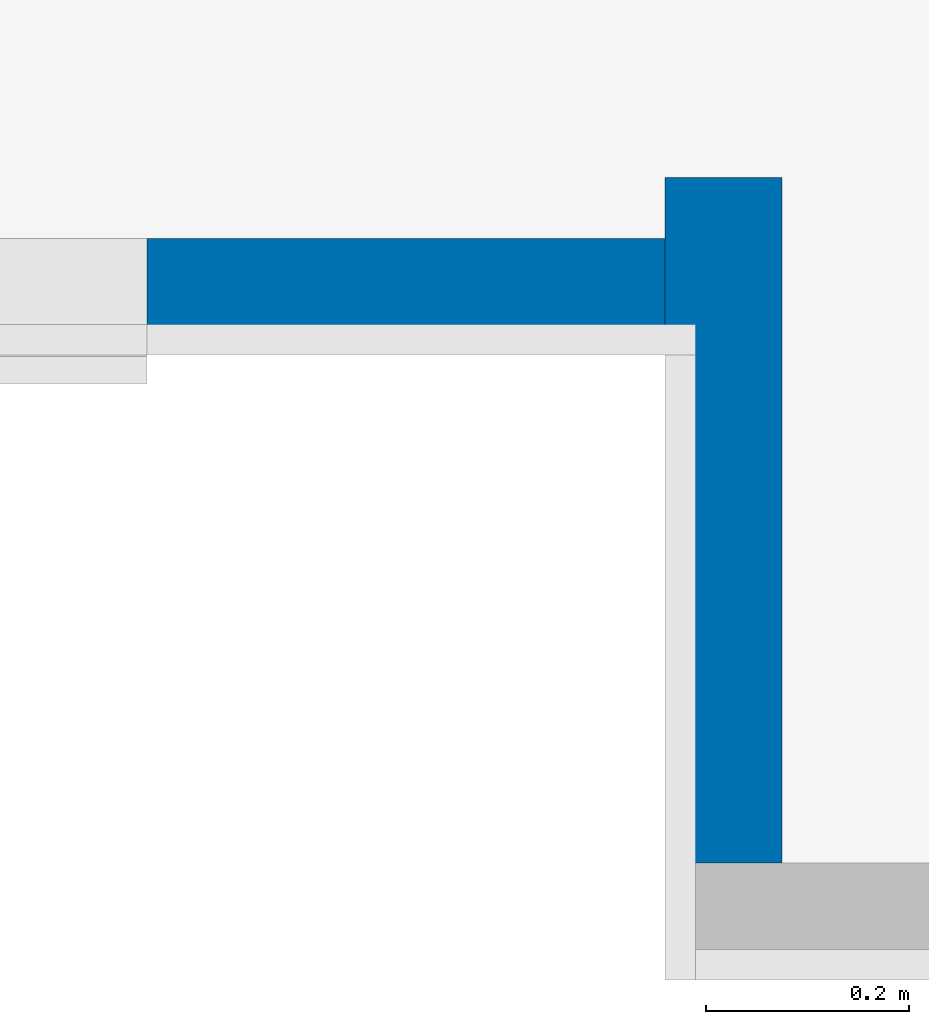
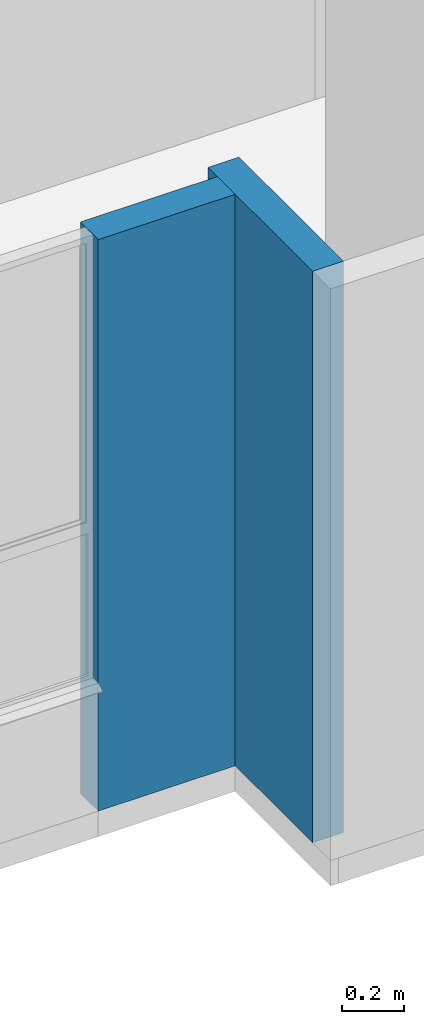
# One storey, part 10 of 48: 2 walls.
"""IFC4 building model written with IfcOpenShell, lengths in metres."""

from ifc_helpers import new_model, entity, si_unit, converted_unit, derived_unit, direction, frame, origin, place, context, subcontext, project, spatial, indexed_curve, outline, extrude, material, type_object, element, save


model = new_model("IFC4")

# Units and contexts
model_context = context("Model", 3, precision=1e-05, world=origin(), true_north=direction((6.123031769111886e-17, 1.0)))
body_context = subcontext(model_context, "Body", "Model", "MODEL_VIEW")
ifc_project = project(units=[si_unit("LENGTHUNIT", "METRE"), si_unit("AREAUNIT", "SQUARE_METRE"), si_unit("VOLUMEUNIT", "CUBIC_METRE"), converted_unit("PLANEANGLEUNIT", "DEGREE", entity("IfcRatioMeasure", 0.017453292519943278), si_unit("PLANEANGLEUNIT", "RADIAN"), dimensions=[0, 0, 0, 0, 0, 0, 0]), si_unit("MASSUNIT", "GRAM", prefix="KILO"), derived_unit("MASSDENSITYUNIT", [(si_unit("MASSUNIT", "GRAM", prefix="KILO"), 1), (si_unit("LENGTHUNIT", "METRE"), -3)]), derived_unit("IONCONCENTRATIONUNIT", [(si_unit("MASSUNIT", "GRAM", prefix="KILO"), 1), (si_unit("LENGTHUNIT", "METRE"), -3)]), derived_unit("MOMENTOFINERTIAUNIT", [(si_unit("LENGTHUNIT", "METRE"), 4)]), si_unit("TIMEUNIT", "SECOND"), si_unit("FREQUENCYUNIT", "HERTZ"), si_unit("THERMODYNAMICTEMPERATUREUNIT", "DEGREE_CELSIUS"), derived_unit("THERMALTRANSMITTANCEUNIT", [(si_unit("MASSUNIT", "GRAM", prefix="KILO"), 1), (si_unit("THERMODYNAMICTEMPERATUREUNIT", "KELVIN"), -1), (si_unit("TIMEUNIT", "SECOND"), -3)]), derived_unit("THERMALCONDUCTANCEUNIT", [(si_unit("MASSUNIT", "GRAM", prefix="KILO"), 1), (si_unit("THERMODYNAMICTEMPERATUREUNIT", "KELVIN"), -1), (si_unit("TIMEUNIT", "SECOND"), -3), (si_unit("LENGTHUNIT", "METRE"), 1)]), derived_unit("VOLUMETRICFLOWRATEUNIT", [(si_unit("LENGTHUNIT", "METRE"), 3), (si_unit("TIMEUNIT", "SECOND"), -1)]), derived_unit("MASSFLOWRATEUNIT", [(si_unit("MASSUNIT", "GRAM", prefix="KILO"), 1), (si_unit("TIMEUNIT", "SECOND"), -1)]), derived_unit("ROTATIONALFREQUENCYUNIT", [(si_unit("TIMEUNIT", "SECOND"), -1)]), si_unit("ELECTRICCURRENTUNIT", "AMPERE"), si_unit("ELECTRICVOLTAGEUNIT", "VOLT"), si_unit("POWERUNIT", "WATT"), si_unit("FORCEUNIT", "NEWTON", prefix="KILO"), si_unit("ILLUMINANCEUNIT", "LUX"), si_unit("LUMINOUSFLUXUNIT", "LUMEN"), si_unit("LUMINOUSINTENSITYUNIT", "CANDELA"), derived_unit("USERDEFINED", [(si_unit("MASSUNIT", "GRAM", prefix="KILO"), -1), (si_unit("LENGTHUNIT", "METRE"), -2), (si_unit("TIMEUNIT", "SECOND"), 3), (si_unit("LUMINOUSFLUXUNIT", "LUMEN"), 1)]), derived_unit("USERDEFINED", [(si_unit("MASSUNIT", "GRAM", prefix="KILO"), 1), (si_unit("TIMEUNIT", "SECOND"), -3), (si_unit("LENGTHUNIT", "METRE"), 3), (si_unit("ELECTRICCURRENTUNIT", "AMPERE"), -2)]), derived_unit("SOUNDPOWERUNIT", [(si_unit("MASSUNIT", "GRAM", prefix="KILO"), 1), (si_unit("TIMEUNIT", "SECOND"), -3), (si_unit("LENGTHUNIT", "METRE"), 2)]), derived_unit("SOUNDPRESSUREUNIT", [(si_unit("MASSUNIT", "GRAM", prefix="KILO"), 1), (si_unit("LENGTHUNIT", "METRE"), -1), (si_unit("TIMEUNIT", "SECOND"), -2)]), derived_unit("LINEARVELOCITYUNIT", [(si_unit("LENGTHUNIT", "METRE"), 1), (si_unit("TIMEUNIT", "SECOND"), -1)]), si_unit("PRESSUREUNIT", "PASCAL"), derived_unit("USERDEFINED", [(si_unit("MASSUNIT", "GRAM", prefix="KILO"), 1), (si_unit("LENGTHUNIT", "METRE"), -2), (si_unit("TIMEUNIT", "SECOND"), -2)]), derived_unit("LINEARFORCEUNIT", [(si_unit("MASSUNIT", "GRAM", prefix="KILO"), 1), (si_unit("TIMEUNIT", "SECOND"), -2)]), derived_unit("PLANARFORCEUNIT", [(si_unit("MASSUNIT", "GRAM", prefix="KILO"), 1), (si_unit("LENGTHUNIT", "METRE"), -1), (si_unit("TIMEUNIT", "SECOND"), -2)]), derived_unit("SPECIFICHEATCAPACITYUNIT", [(si_unit("THERMODYNAMICTEMPERATUREUNIT", "KELVIN"), -1), (si_unit("LENGTHUNIT", "METRE"), 2), (si_unit("TIMEUNIT", "SECOND"), -2)]), derived_unit("HEATINGVALUEUNIT", [(si_unit("LENGTHUNIT", "METRE"), 2), (si_unit("TIMEUNIT", "SECOND"), -2)]), derived_unit("VAPORPERMEABILITYUNIT", [(si_unit("LENGTHUNIT", "METRE"), -1), (si_unit("TIMEUNIT", "SECOND"), 1)]), derived_unit("DYNAMICVISCOSITYUNIT", [(si_unit("MASSUNIT", "GRAM", prefix="KILO"), 1), (si_unit("TIMEUNIT", "SECOND"), -1), (si_unit("LENGTHUNIT", "METRE"), -1)]), derived_unit("THERMALEXPANSIONCOEFFICIENTUNIT", [(si_unit("THERMODYNAMICTEMPERATUREUNIT", "KELVIN"), -1)]), derived_unit("MODULUSOFELASTICITYUNIT", [(si_unit("MASSUNIT", "GRAM", prefix="KILO"), 1), (si_unit("LENGTHUNIT", "METRE"), -1), (si_unit("TIMEUNIT", "SECOND"), -2)]), derived_unit("ISOTHERMALMOISTURECAPACITYUNIT", [(si_unit("LENGTHUNIT", "METRE"), 3), (si_unit("MASSUNIT", "GRAM", prefix="KILO"), -1)]), derived_unit("MOISTUREDIFFUSIVITYUNIT", [(si_unit("TIMEUNIT", "SECOND"), -1), (si_unit("LENGTHUNIT", "METRE"), 2)])], contexts=[model_context])

# Site, building, storey
site_placement = place(None, origin())
site = spatial("IfcSite", under=ifc_project, at=site_placement, Name="Default", CompositionType="ELEMENT")
building_placement = place(site_placement, origin())
building = spatial("IfcBuilding", under=site, at=building_placement, CompositionType="ELEMENT")
storey_placement = place(building_placement, frame((0.0, 0.0, 4.700000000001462)))
storey = spatial("IfcBuildingStorey", under=building, at=storey_placement, Name="Nivel 3", CompositionType="ELEMENT", Elevation=4.700000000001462)

# Walls
ifc_material_1 = material(Name="Ladrillo claro (Aire)", Category="Materials")
wall_type_1 = type_object("IfcWallType", Name="Basic Wall:B2010 - 0.115m - Muro exterior en mampostería - Ladrillo", PredefinedType="STANDARD")
wall_1_placement = place(storey_placement, frame((12.520000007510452, -12.755000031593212, 0.0), z_axis=(0.0, 0.0, 1.0), x_axis=(0.0, 1.0, 0.0)))
element("IfcWall", 1, at=wall_1_placement, inside=storey, type_object=wall_type_1, material=ifc_material_1, Name="Basic Wall:B2010 - 0.115m - Muro exterior en mampostería - Ladrillo", ObjectType="Basic Wall:B2010 - 0.115m - Muro exterior en mampostería - Ladrillo", PredefinedType="NOTDEFINED", context=body_context, shape_type="SweptSolid", body=[
    extrude(outline(indexed_curve([(0.6749180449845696, 0.05749999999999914), (-1.1815459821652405e-16, 0.057499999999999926), (1.1815459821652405e-16, -0.057499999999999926), (0.67491804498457, -0.0575000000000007), (0.6749180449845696, 0.05749999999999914)], self_intersect=False)), origin(), (0.0, 0.0, 1.0), 2.2500000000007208),
])
ifc_material_2 = material(Name="LADRILLO CLARO", Category="Materials")
wall_type_2 = type_object("IfcWallType", Name="Basic Wall:B2010 - 0.115m - ME mampostería no estructural - Ladrillo", PredefinedType="STANDARD")
wall_2_placement = place(storey_placement, frame((12.462500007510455, -12.197500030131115, 0.0), z_axis=(0.0, 0.0, 1.0), x_axis=(-1.0, 0.0, 0.0)))
element("IfcWall", 2, at=wall_2_placement, inside=storey, type_object=wall_type_2, material=ifc_material_2, Name="Basic Wall:B2010 - 0.115m - ME mampostería no estructural - Ladrillo", ObjectType="Basic Wall:B2010 - 0.115m - ME mampostería no estructural - Ladrillo", PredefinedType="NOTDEFINED", context=body_context, shape_type="SweptSolid", body=[
    extrude(outline(indexed_curve([(0.5100000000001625, 0.05749999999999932), (-8.767403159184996e-16, 0.057499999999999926), (8.767403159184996e-16, -0.057499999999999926), (0.5100000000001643, -0.05750000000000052), (0.5100000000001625, 0.05749999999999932)], self_intersect=False)), origin(), (0.0, 0.0, 1.0), 2.2500000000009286),
])

save(model, "model.ifc")
